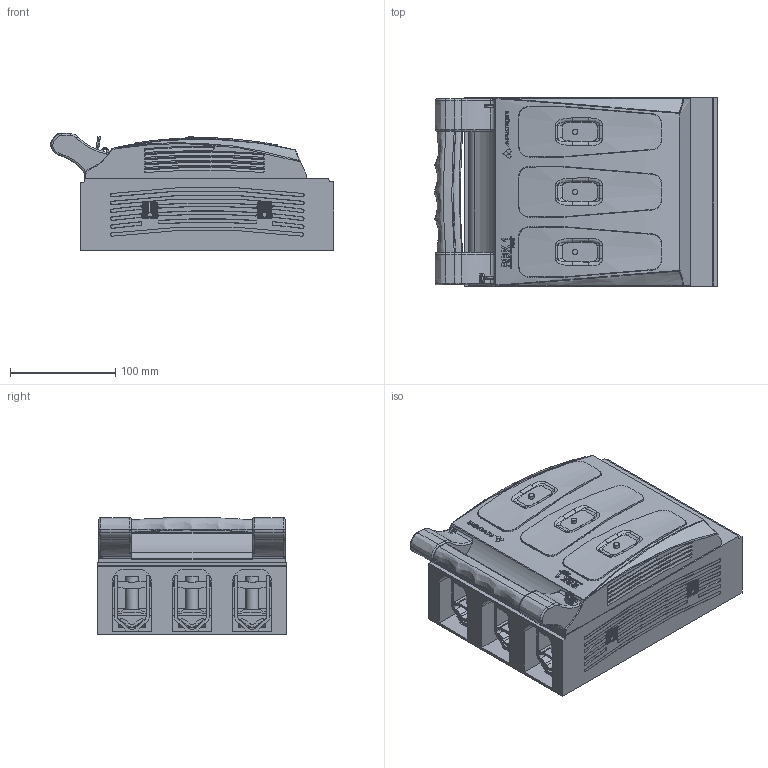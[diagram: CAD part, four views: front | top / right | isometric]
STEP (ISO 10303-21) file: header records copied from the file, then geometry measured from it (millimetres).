
FILE_DESCRIPTION(/* description */ (''),/* implementation_level */ '2;1');
FILE_NAME(/* name */ 'RBK 1 pro-VG-M - 63-811784-021.stp',/* time_stamp */ '2019-03-11T09:14:44+01:00',/* author */ (''),/* organization */ (''),/* preprocessor_version */ 'ST-DEVELOPER v16',/* originating_system */ 'SIEMENS PLM Software NX 10.0',/* authorisation */ '');
FILE_SCHEMA (('AUTOMOTIVE_DESIGN { 1 0 10303 214 3 1 1 1 }'));
Products named in the file (1): 710_115086EF6xny
Bounding box: 268.9 x 180 x 111 mm (x, y, z)
Surface area: 284849.5 mm2
Topology: 11 solids, 12 shells, 2531 faces, 6727 edges, 4282 vertices
Faces by surface type: plane 1549, bspline 335, cylinder 322, cone 144, torus 81, extrusion 52, sphere 30, revolution 18
Full cylindrical faces by diameter (mm): 4.5 x3, 11 x3
Entity records: 97962 total; most frequent: CARTESIAN_POINT 34509, ORIENTED_EDGE 13266, DIRECTION 12245, EDGE_CURVE 6633, AXIS2_PLACEMENT_3D 4514, VERTEX_POINT 4267, VECTOR 3195, LINE 3143
